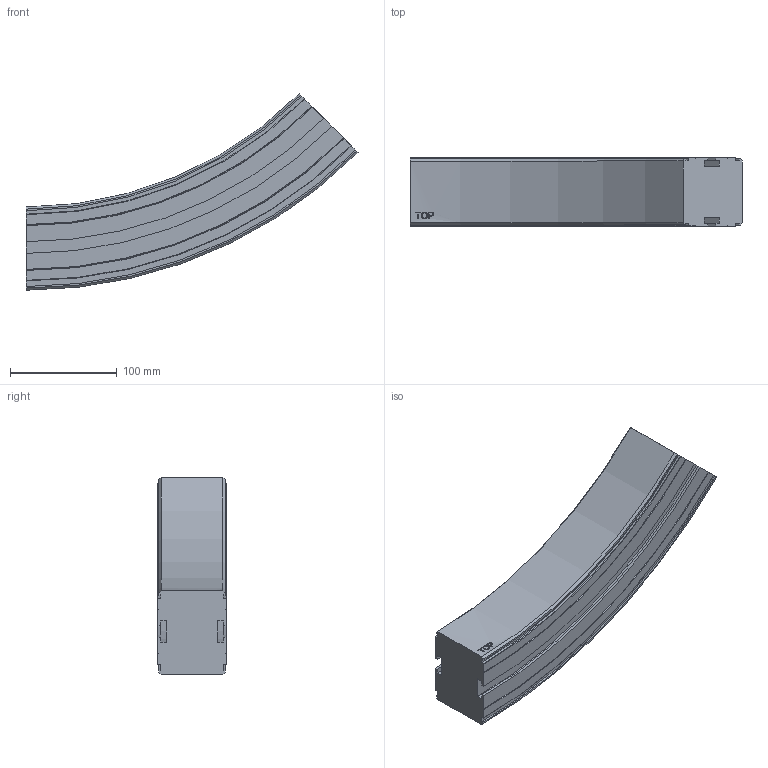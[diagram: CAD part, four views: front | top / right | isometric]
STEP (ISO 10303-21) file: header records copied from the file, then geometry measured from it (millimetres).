
FILE_DESCRIPTION((''),'2;1');
FILE_NAME('C:\Vault Klient\Projekt\Koncept konstruktion\Serie 620 Balk\620-5620_UP.stp','2009-11-26T15:40:39',('Mathias'),(''),'Autodesk Inventor 2010','Autodesk Inventor 2010','');
FILE_SCHEMA(('AUTOMOTIVE_DESIGN { 1 0 10303 214 1 1 1 1 }'));
Length unit declared in the file: millimetre
Products named in the file (1): 620-5620_UP
Bounding box: 311.13 x 64 x 184.03 mm (x, y, z)
Volume: 1464593.2 mm3; surface area: 122788.7 mm2
Topology: 1 solids, 1 shells, 93 faces, 258 edges, 172 vertices
Faces by surface type: plane 40, cylinder 23, bspline 14, cone 12, torus 4
Entity records: 3377 total; most frequent: CARTESIAN_POINT 942, ORIENTED_EDGE 516, DIRECTION 472, EDGE_CURVE 258, VERTEX_POINT 172, AXIS2_PLACEMENT_3D 162, VECTOR 148, LINE 148
